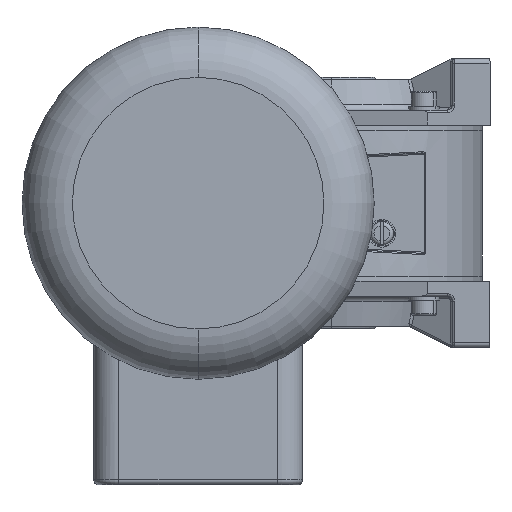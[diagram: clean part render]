
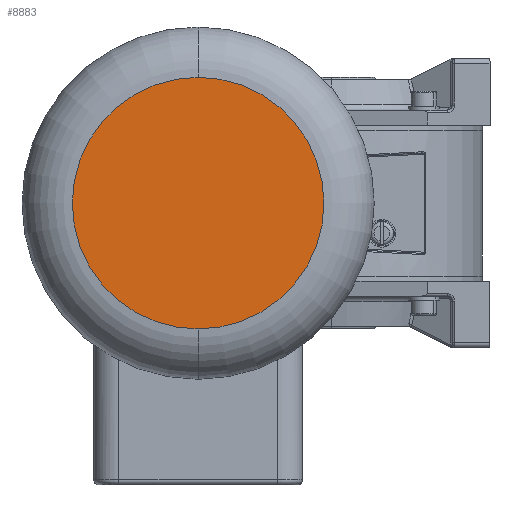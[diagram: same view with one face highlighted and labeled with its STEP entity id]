
A CAD part, left-side view. The second image highlights one B-rep face of the part: STEP entity #8883.
In plain terms, the highlighted planar face has unit normal (-1, 0, 0).
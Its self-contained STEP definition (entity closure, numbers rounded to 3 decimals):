
#267 = CIRCLE ( 'NONE', #9633, 50. ) ;
#1957 = DIRECTION ( 'NONE',  ( -1., 0., 0. ) ) ;
#2134 = AXIS2_PLACEMENT_3D ( 'NONE', #14695, #1957, #6899 ) ;
#2178 = CARTESIAN_POINT ( 'NONE',  ( 0., 0., -50. ) ) ;
#3112 = DIRECTION ( 'NONE',  ( 1., 0., 0. ) ) ;
#3220 = DIRECTION ( 'NONE',  ( -1., 0., 0. ) ) ;
#3690 = AXIS2_PLACEMENT_3D ( 'NONE', #8141, #3112, #6973 ) ;
#3732 = EDGE_CURVE ( 'NONE', #10571, #11532, #7471, .T. ) ;
#3754 = EDGE_CURVE ( 'NONE', #11532, #10571, #267, .T. ) ;
#6739 = EDGE_LOOP ( 'NONE', ( #13071, #8048 ) ) ;
#6899 = DIRECTION ( 'NONE',  ( 0., 0., -1. ) ) ;
#6973 = DIRECTION ( 'NONE',  ( 0., 0., -1. ) ) ;
#7471 = CIRCLE ( 'NONE', #2134, 50. ) ;
#7683 = CARTESIAN_POINT ( 'NONE',  ( 0., 0., 50. ) ) ;
#8048 = ORIENTED_EDGE ( 'NONE', *, *, #3732, .T. ) ;
#8141 = CARTESIAN_POINT ( 'NONE',  ( 0., 0., 0. ) ) ;
#8883 = ADVANCED_FACE ( 'NONE', ( #14599 ), #14519, .F. ) ;
#9633 = AXIS2_PLACEMENT_3D ( 'NONE', #13514, #3220, #14618 ) ;
#10571 = VERTEX_POINT ( 'NONE', #7683 ) ;
#11532 = VERTEX_POINT ( 'NONE', #2178 ) ;
#13071 = ORIENTED_EDGE ( 'NONE', *, *, #3754, .T. ) ;
#13514 = CARTESIAN_POINT ( 'NONE',  ( 0., 0., 0. ) ) ;
#14519 = PLANE ( 'NONE',  #3690 ) ;
#14599 = FACE_OUTER_BOUND ( 'NONE', #6739, .T. ) ;
#14618 = DIRECTION ( 'NONE',  ( 0., 0., -1. ) ) ;
#14695 = CARTESIAN_POINT ( 'NONE',  ( 0., 0., 0. ) ) ;
